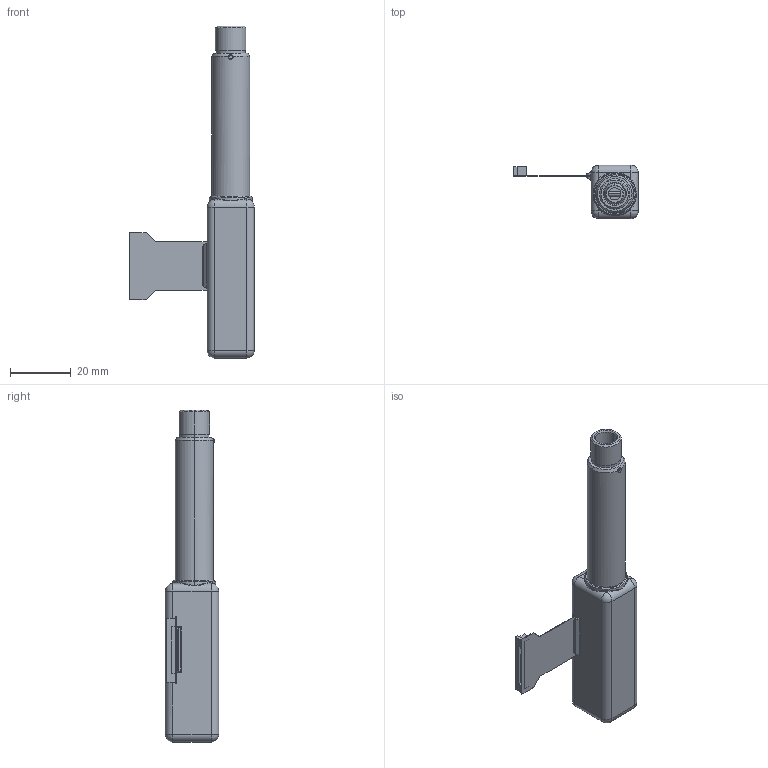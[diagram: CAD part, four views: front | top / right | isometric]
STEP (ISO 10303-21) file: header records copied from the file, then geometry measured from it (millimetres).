
FILE_DESCRIPTION (( 'STEP AP214' ), '1' );
FILE_NAME ('LA12_S050-HOME.STEP', '2026-08-10T05:11:24', ( '' ), ( '' ), 'SwSTEP 2.0', 'SolidWorks 2019', '' );
FILE_SCHEMA (( 'AUTOMOTIVE_DESIGN' ));
Length unit declared in the file: millimetre
Products named in the file (5): LA12_leadscrew-nut; LA12_S050-HOME; LA12_body+housing
Assembly tree (2 placements, depth 2):
  LA12_leadscrew-nut
  LA12_S050-HOME
    LA12_body+housing
    LA12_leadscrew-nut
  LA12_body+housing
Bounding box: 40.9 x 17.5 x 108.89 mm (x, y, z)
Volume: 20420 mm3; surface area: 9724.4 mm2
Topology: 4 solids, 4 shells, 156 faces, 378 edges, 225 vertices
Faces by surface type: plane 63, cylinder 54, cone 16, bspline 11, sphere 8, torus 4
Entity records: 8874 total; most frequent: CARTESIAN_POINT 3860, ORIENTED_EDGE 740, DIRECTION 732, EDGE_CURVE 370, AXIS2_PLACEMENT_3D 271, VERTEX_POINT 225, VECTOR 190, LINE 190
